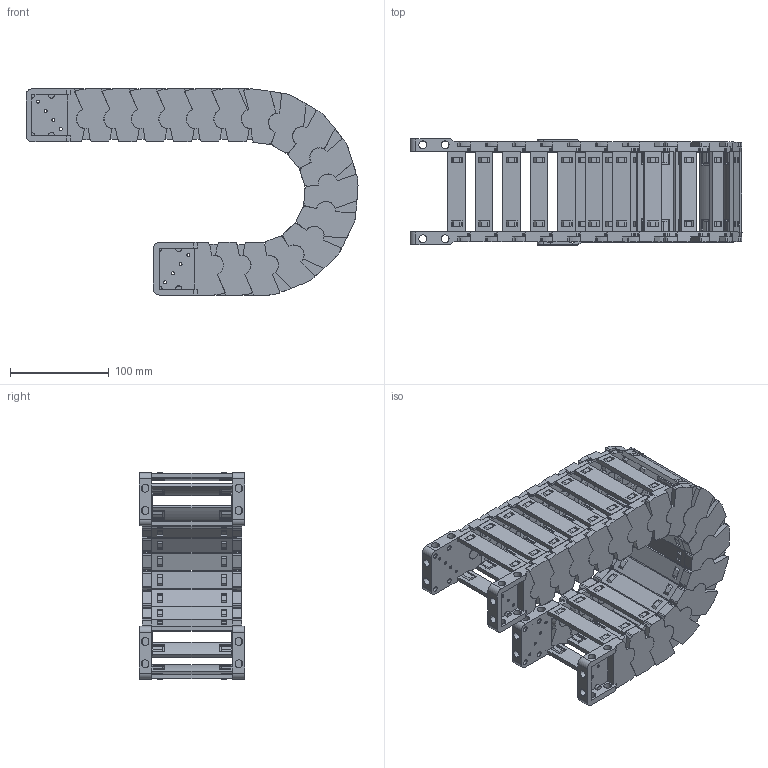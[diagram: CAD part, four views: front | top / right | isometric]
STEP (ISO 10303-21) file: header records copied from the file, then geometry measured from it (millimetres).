
FILE_DESCRIPTION((''),'2;1');
FILE_NAME('JY-42X80-R75_ASM','2025-09-11T11:13:57',('admin'),(''),'CREO PARAMETRIC BY PTC INC, 2021023','CREO PARAMETRIC BY PTC INC, 2021023','');
FILE_SCHEMA(('CONFIG_CONTROL_DESIGN'));
Length unit declared in the file: millimetre
Products named in the file (11): 42XL-L; 42-52XL-YP; 42XL-R; ASM0001_ASM; 42-LTT-A-L; 42-LTT-A-R; 42XL-LTT-A_ASM; 42-LTT-B-L; 42-LTT-B-R; 42XL-LTT-B_ASM; JY-42X80-R75_ASM
Assembly tree (30 placements, depth 3):
  JY-42X80-R75_ASM
    ASM0001_ASM  x16
      42XL-L
      42-52XL-YP
      42XL-R
    42XL-LTT-A_ASM
      42-LTT-A-L
      42-52XL-YP  x2
      42-LTT-A-R
    42XL-LTT-B_ASM
      42-LTT-B-L
      42-52XL-YP  x2
      42-LTT-B-R
Bounding box: 335.76 x 107 x 208.45 mm (x, y, z)
Volume: 735038.5 mm3; surface area: 427693.1 mm2
Topology: 72 solids, 72 shells, 3978 faces, 11912 edges, 8060 vertices
Faces by surface type: plane 2638, cylinder 930, cone 326, bspline 66, torus 18
Entity records: 26465 total; most frequent: CARTESIAN_POINT 7336, ORIENTED_EDGE 4024, DIRECTION 3958, EDGE_CURVE 2012, AXIS2_PLACEMENT_3D 1429, VERTEX_POINT 1360, VECTOR 1100, LINE 1100
